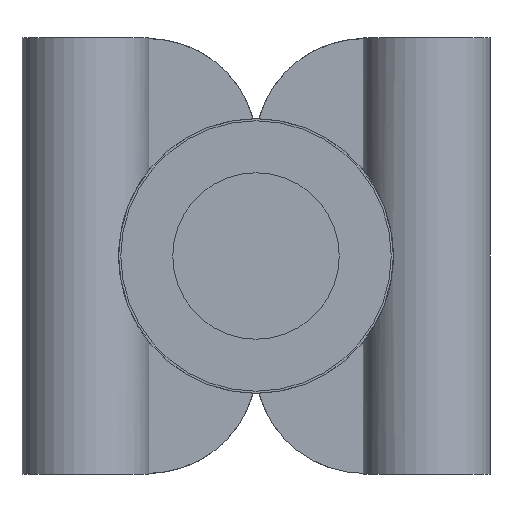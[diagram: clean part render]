
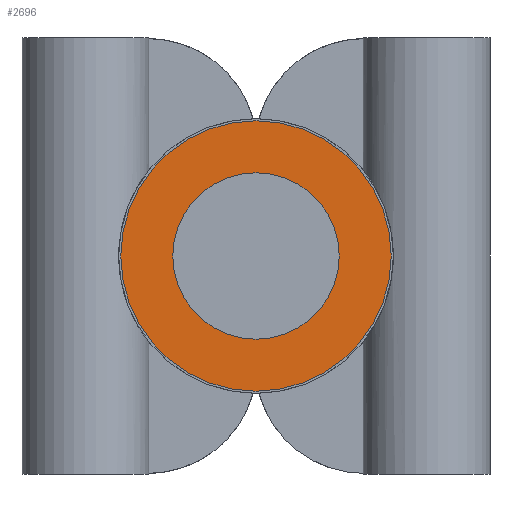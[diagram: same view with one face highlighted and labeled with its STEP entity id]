
A CAD part, front view. The second image highlights one B-rep face of the part: STEP entity #2696.
In plain terms, the highlighted planar face has unit normal (0, -1, 0).
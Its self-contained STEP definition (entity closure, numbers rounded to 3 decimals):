
#69 = AXIS2_PLACEMENT_3D ( 'NONE', #2130, #2165, #2379 ) ;
#77 = AXIS2_PLACEMENT_3D ( 'NONE', #1397, #1167, #751 ) ;
#125 = DIRECTION ( 'NONE',  ( 0., -1., 0. ) ) ;
#321 = VERTEX_POINT ( 'NONE', #746 ) ;
#328 = ORIENTED_EDGE ( 'NONE', *, *, #729, .T. ) ;
#359 = CARTESIAN_POINT ( 'NONE',  ( 0., 0., 0. ) ) ;
#363 = ORIENTED_EDGE ( 'NONE', *, *, #1219, .F. ) ;
#637 = VERTEX_POINT ( 'NONE', #695 ) ;
#695 = CARTESIAN_POINT ( 'NONE',  ( 0., 0., 4. ) ) ;
#729 = EDGE_CURVE ( 'NONE', #1510, #920, #1527, .T. ) ;
#746 = CARTESIAN_POINT ( 'NONE',  ( 0., 0., -4. ) ) ;
#751 = DIRECTION ( 'NONE',  ( 0., 0., -1. ) ) ;
#920 = VERTEX_POINT ( 'NONE', #1488 ) ;
#1020 = PLANE ( 'NONE',  #1525 ) ;
#1096 = AXIS2_PLACEMENT_3D ( 'NONE', #2346, #1248, #2441 ) ;
#1167 = DIRECTION ( 'NONE',  ( 0., -1., 0. ) ) ;
#1176 = ORIENTED_EDGE ( 'NONE', *, *, #2148, .T. ) ;
#1219 = EDGE_CURVE ( 'NONE', #321, #637, #1608, .T. ) ;
#1248 = DIRECTION ( 'NONE',  ( 0., -1., 0. ) ) ;
#1397 = CARTESIAN_POINT ( 'NONE',  ( 0., 0., 0. ) ) ;
#1488 = CARTESIAN_POINT ( 'NONE',  ( 0., 0., 6.5 ) ) ;
#1510 = VERTEX_POINT ( 'NONE', #2313 ) ;
#1525 = AXIS2_PLACEMENT_3D ( 'NONE', #1909, #2173, #1700 ) ;
#1527 = CIRCLE ( 'NONE', #77, 6.5 ) ;
#1538 = FACE_BOUND ( 'NONE', #1647, .T. ) ;
#1608 = CIRCLE ( 'NONE', #2518, 4. ) ;
#1647 = EDGE_LOOP ( 'NONE', ( #363, #1678 ) ) ;
#1678 = ORIENTED_EDGE ( 'NONE', *, *, #2748, .F. ) ;
#1700 = DIRECTION ( 'NONE',  ( 1., 0., 0. ) ) ;
#1726 = FACE_OUTER_BOUND ( 'NONE', #2562, .T. ) ;
#1784 = CIRCLE ( 'NONE', #1096, 4. ) ;
#1909 = CARTESIAN_POINT ( 'NONE',  ( 6.5, 0., 0. ) ) ;
#2130 = CARTESIAN_POINT ( 'NONE',  ( 0., 0., 0. ) ) ;
#2148 = EDGE_CURVE ( 'NONE', #920, #1510, #2831, .T. ) ;
#2165 = DIRECTION ( 'NONE',  ( 0., -1., 0. ) ) ;
#2173 = DIRECTION ( 'NONE',  ( 0., 1., 0. ) ) ;
#2313 = CARTESIAN_POINT ( 'NONE',  ( 0., 0., -6.5 ) ) ;
#2346 = CARTESIAN_POINT ( 'NONE',  ( 0., 0., 0. ) ) ;
#2379 = DIRECTION ( 'NONE',  ( 0., 0., -1. ) ) ;
#2380 = DIRECTION ( 'NONE',  ( 0., 0., -1. ) ) ;
#2441 = DIRECTION ( 'NONE',  ( 0., 0., -1. ) ) ;
#2518 = AXIS2_PLACEMENT_3D ( 'NONE', #359, #125, #2380 ) ;
#2562 = EDGE_LOOP ( 'NONE', ( #328, #1176 ) ) ;
#2696 = ADVANCED_FACE ( 'NONE', ( #1726, #1538 ), #1020, .F. ) ;
#2748 = EDGE_CURVE ( 'NONE', #637, #321, #1784, .T. ) ;
#2831 = CIRCLE ( 'NONE', #69, 6.5 ) ;
